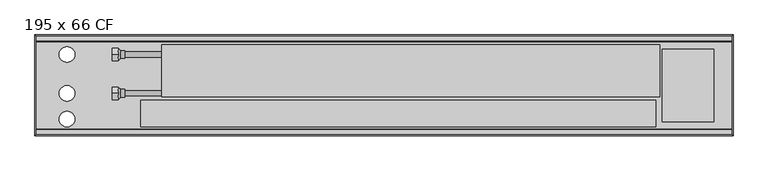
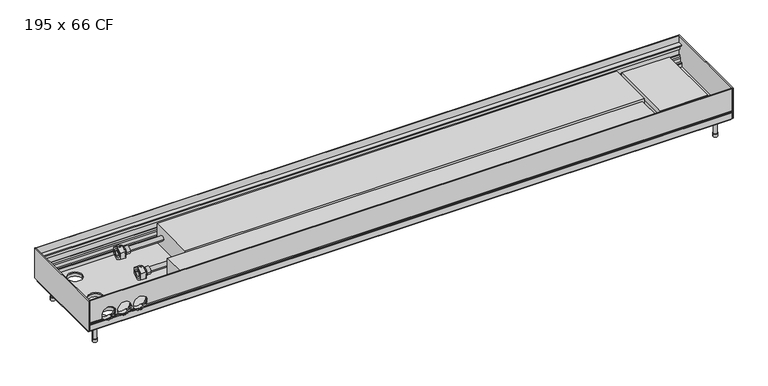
"""IFC4 building model written with IfcOpenShell, lengths in millimetres: proxy geometry, Mohlenhof_Внутрипольный конвектор_QSKM CF : 195 x 66 CF."""

from ifc_helpers import new_model, si_unit, point, frame, frame_2d, origin, place, context, project, spatial, polyline, circle_curve, ellipse_curve, trimmed, segment, composite_curve, outline, extrude, source, transform, mapped, element, save
from ifc_brep_helpers import plane_surface, cylinder_surface, revolved_surface, advanced_brep


def proxy_195_x_66_cf_f7968546(model_context):
    return source(origin(), model_context, "Body", "SolidModel", [
        advanced_brep(
        [(-514.0, -213.0, -41.0), (-514.0, -201.0, -41.0), (-514.0, -225.0, -41.0), (-501.5, -220.5, -41.0), (-501.5, -205.5, -41.0), (-501.5, -213.0, -41.0), (-509.0, -220.5, -41.0), (-509.0, -205.5, -41.0)],
        [
            (0, 1),
            (1, 2, circle_curve(frame((-514.0, -213.0, -41.0), z_axis=(-1.0, 0.0, 0.0), x_axis=(0.0, 1.0, 0.0)), 12.0)),
            (2, 0),
            (2, 1, circle_curve(frame((-514.0, -213.0, -41.0), z_axis=(-1.0, 0.0, 0.0), x_axis=(0.0, 1.0, 0.0)), 12.0)),
            (3, 4, circle_curve(frame((-501.5, -213.0, -41.0), z_axis=(1.0, 0.0, 0.0), x_axis=(0.0, 1.0, 0.0)), 7.5)),
            (4, 5),
            (5, 3),
            (4, 3, circle_curve(frame((-501.5, -213.0, -41.0), z_axis=(1.0, 0.0, 0.0), x_axis=(0.0, 1.0, 0.0)), 7.5)),
            (6, 7, circle_curve(frame((-509.0, -213.0, -41.0), z_axis=(1.0, 0.0, 0.0), x_axis=(0.0, 1.0, 0.0)), 7.5)),
            (7, 4),
            (3, 6),
            (7, 6, circle_curve(frame((-509.0, -213.0, -41.0), z_axis=(1.0, 0.0, 0.0), x_axis=(0.0, 1.0, 0.0)), 7.5)),
            (1, 7),
            (6, 2),
        ],
        [
            plane_surface(frame((-514.0, -213.0, -41.0), z_axis=(-1.0, 0.0, 0.0), x_axis=(0.0, 1.0, 0.0))),
            plane_surface(frame((-501.5, -213.0, -41.0), z_axis=(1.0, 0.0, 0.0), x_axis=(0.0, 1.0, 0.0))),
            cylinder_surface(frame((-514.0, -213.0, -41.0), z_axis=(-1.0, 0.0, 0.0), x_axis=(0.0, 1.0, 0.0)), 7.5),
            revolved_surface(polyline([(-509.0, -205.5, -41.0), (-514.0, -201.0, -41.0)]), (-514.0, -213.0, -41.0), (-1.0, 0.0, 0.0)),
        ],
        [
            (0, [[1, 2, 3]]),
            (0, [[-3, 4, -1]]),
            (1, [[5, 6, 7]]),
            (1, [[8, -7, -6]]),
            (2, [[9, 10, -5, 11]]),
            (2, [[12, -11, -8, -10]]),
            (3, [[-2, 13, -9, 14]]),
            (3, [[-4, -14, -12, -13]]),
        ],
    ),
        extrude(outline(polyline([(-213.0, -27.1435935), (-201.0, -34.0717968), (-201.0, -47.9282032), (-213.0, -54.8564065), (-225.0, -47.9282032), (-225.0, -34.0717968), (-213.0, -27.1435935)]), holes=[composite_curve([segment(trimmed(circle_curve(frame_2d((-213.0, -41.0)), 8.5), [point((-204.5, -41.0))], [point((-221.5, -41.0))], True, "CARTESIAN"), True, "CONTINUOUS"), segment(trimmed(circle_curve(frame_2d((-213.0, -41.0)), 8.5), [point((-221.5, -41.0))], [point((-204.5, -41.0))], True, "CARTESIAN"), True, "CONTINUOUS")], self_intersect=False)]), frame((-525.0, 0.0, 0.0), z_axis=(1.0, 0.0, 0.0), x_axis=(0.0, 1.0, 0.0)), (0.0, 0.0, 1.0), 11.0),
        advanced_brep(
        [(-514.0, -138.0, -41.0), (-514.0, -126.0, -41.0), (-514.0, -150.0, -41.0), (-501.5, -145.5, -41.0), (-501.5, -130.5, -41.0), (-501.5, -138.0, -41.0), (-509.0, -145.5, -41.0), (-509.0, -130.5, -41.0)],
        [
            (0, 1),
            (1, 2, circle_curve(frame((-514.0, -138.0, -41.0), z_axis=(-1.0, 0.0, 0.0), x_axis=(0.0, 1.0, 0.0)), 12.0)),
            (2, 0),
            (2, 1, circle_curve(frame((-514.0, -138.0, -41.0), z_axis=(-1.0, 0.0, 0.0), x_axis=(0.0, 1.0, 0.0)), 12.0)),
            (3, 4, circle_curve(frame((-501.5, -138.0, -41.0), z_axis=(1.0, 0.0, 0.0), x_axis=(0.0, 1.0, 0.0)), 7.5)),
            (4, 5),
            (5, 3),
            (4, 3, circle_curve(frame((-501.5, -138.0, -41.0), z_axis=(1.0, 0.0, 0.0), x_axis=(0.0, 1.0, 0.0)), 7.5)),
            (6, 7, circle_curve(frame((-509.0, -138.0, -41.0), z_axis=(1.0, 0.0, 0.0), x_axis=(0.0, 1.0, 0.0)), 7.5)),
            (7, 4),
            (3, 6),
            (7, 6, circle_curve(frame((-509.0, -138.0, -41.0), z_axis=(1.0, 0.0, 0.0), x_axis=(0.0, 1.0, 0.0)), 7.5)),
            (1, 7),
            (6, 2),
        ],
        [
            plane_surface(frame((-514.0, -138.0, -41.0), z_axis=(-1.0, 0.0, 0.0), x_axis=(0.0, 1.0, 0.0))),
            plane_surface(frame((-501.5, -138.0, -41.0), z_axis=(1.0, 0.0, 0.0), x_axis=(0.0, 1.0, 0.0))),
            cylinder_surface(frame((-514.0, -138.0, -41.0), z_axis=(-1.0, 0.0, 0.0), x_axis=(0.0, 1.0, 0.0)), 7.5),
            revolved_surface(polyline([(-509.0, -130.5, -41.0), (-514.0, -126.0, -41.0)]), (-514.0, -138.0, -41.0), (-1.0, 0.0, 0.0)),
        ],
        [
            (0, [[1, 2, 3]]),
            (0, [[-3, 4, -1]]),
            (1, [[5, 6, 7]]),
            (1, [[8, -7, -6]]),
            (2, [[9, 10, -5, 11]]),
            (2, [[12, -11, -8, -10]]),
            (3, [[-2, 13, -9, 14]]),
            (3, [[-4, -14, -12, -13]]),
        ],
    ),
        extrude(outline(polyline([(-138.0, -27.1435935), (-126.0, -34.0717968), (-126.0, -47.9282032), (-138.0, -54.8564065), (-150.0, -47.9282032), (-150.0, -34.0717968), (-138.0, -27.1435935)]), holes=[composite_curve([segment(trimmed(circle_curve(frame_2d((-138.0, -41.0)), 8.5), [point((-129.5, -41.0))], [point((-146.5, -41.0))], True, "CARTESIAN"), True, "CONTINUOUS"), segment(trimmed(circle_curve(frame_2d((-138.0, -41.0)), 8.5), [point((-146.5, -41.0))], [point((-129.5, -41.0))], True, "CARTESIAN"), True, "CONTINUOUS")], self_intersect=False)]), frame((-525.0, 0.0, 0.0), z_axis=(1.0, 0.0, 0.0), x_axis=(0.0, 1.0, 0.0)), (0.0, 0.0, 1.0), 11.0),
        extrude(outline(composite_curve([segment(trimmed(circle_curve(frame_2d((-650.0, -273.5)), 4.5), [point((-654.5, -273.5))], [point((-645.5, -273.5))], False, "CARTESIAN"), True, "CONTINUOUS"), segment(trimmed(circle_curve(frame_2d((-650.0, -273.5)), 4.5), [point((-645.5, -273.5))], [point((-654.5, -273.5))], False, "CARTESIAN"), True, "CONTINUOUS")], self_intersect=False)), frame((0.0, 0.0, -110.0), z_axis=(0.0, 0.0, 1.0), x_axis=(1.0, 0.0, 0.0)), (0.0, 0.0, 1.0), 7.0),
        extrude(outline(composite_curve([segment(trimmed(circle_curve(frame_2d((-650.0, -273.5)), 4.0), [point((-654.0, -273.5))], [point((-646.0, -273.5))], False, "CARTESIAN"), True, "CONTINUOUS"), segment(trimmed(circle_curve(frame_2d((-650.0, -273.5)), 4.0), [point((-646.0, -273.5))], [point((-654.0, -273.5))], False, "CARTESIAN"), True, "CONTINUOUS")], self_intersect=False)), frame((0.0, 0.0, -103.0), z_axis=(0.0, 0.0, 1.0), x_axis=(1.0, 0.0, 0.0)), (0.0, 0.0, 1.0), 32.5),
        extrude(outline(composite_curve([segment(trimmed(circle_curve(frame_2d((-650.0, -121.5)), 4.5), [point((-654.5, -121.5))], [point((-645.5, -121.5))], False, "CARTESIAN"), True, "CONTINUOUS"), segment(trimmed(circle_curve(frame_2d((-650.0, -121.5)), 4.5), [point((-645.5, -121.5))], [point((-654.5, -121.5))], False, "CARTESIAN"), True, "CONTINUOUS")], self_intersect=False)), frame((0.0, 0.0, -110.0), z_axis=(0.0, 0.0, 1.0), x_axis=(1.0, 0.0, 0.0)), (0.0, 0.0, 1.0), 7.0),
        extrude(outline(composite_curve([segment(trimmed(circle_curve(frame_2d((-650.0, -121.5)), 4.0), [point((-654.0, -121.5))], [point((-646.0, -121.5))], False, "CARTESIAN"), True, "CONTINUOUS"), segment(trimmed(circle_curve(frame_2d((-650.0, -121.5)), 4.0), [point((-646.0, -121.5))], [point((-654.0, -121.5))], False, "CARTESIAN"), True, "CONTINUOUS")], self_intersect=False)), frame((0.0, 0.0, -103.0), z_axis=(0.0, 0.0, 1.0), x_axis=(1.0, 0.0, 0.0)), (0.0, 0.0, 1.0), 32.5),
        extrude(outline(composite_curve([segment(trimmed(circle_curve(frame_2d((650.0, -273.5)), 4.5), [point((645.5, -273.5))], [point((654.5, -273.5))], False, "CARTESIAN"), True, "CONTINUOUS"), segment(trimmed(circle_curve(frame_2d((650.0, -273.5)), 4.5), [point((654.5, -273.5))], [point((645.5, -273.5))], False, "CARTESIAN"), True, "CONTINUOUS")], self_intersect=False)), frame((0.0, 0.0, -110.0), z_axis=(0.0, 0.0, 1.0), x_axis=(1.0, 0.0, 0.0)), (0.0, 0.0, 1.0), 7.0),
        extrude(outline(composite_curve([segment(trimmed(circle_curve(frame_2d((650.0, -273.5)), 4.0), [point((646.0, -273.5))], [point((654.0, -273.5))], False, "CARTESIAN"), True, "CONTINUOUS"), segment(trimmed(circle_curve(frame_2d((650.0, -273.5)), 4.0), [point((654.0, -273.5))], [point((646.0, -273.5))], False, "CARTESIAN"), True, "CONTINUOUS")], self_intersect=False)), frame((0.0, 0.0, -103.0), z_axis=(0.0, 0.0, 1.0), x_axis=(1.0, 0.0, 0.0)), (0.0, 0.0, 1.0), 32.5),
        extrude(outline(composite_curve([segment(trimmed(circle_curve(frame_2d((650.0, -121.5)), 4.5), [point((645.5, -121.5))], [point((654.5, -121.5))], False, "CARTESIAN"), True, "CONTINUOUS"), segment(trimmed(circle_curve(frame_2d((650.0, -121.5)), 4.5), [point((654.5, -121.5))], [point((645.5, -121.5))], False, "CARTESIAN"), True, "CONTINUOUS")], self_intersect=False)), frame((0.0, 0.0, -110.0), z_axis=(0.0, 0.0, 1.0), x_axis=(1.0, 0.0, 0.0)), (0.0, 0.0, 1.0), 7.0),
        extrude(outline(composite_curve([segment(trimmed(circle_curve(frame_2d((650.0, -121.5)), 4.0), [point((646.0, -121.5))], [point((654.0, -121.5))], False, "CARTESIAN"), True, "CONTINUOUS"), segment(trimmed(circle_curve(frame_2d((650.0, -121.5)), 4.0), [point((654.0, -121.5))], [point((646.0, -121.5))], False, "CARTESIAN"), True, "CONTINUOUS")], self_intersect=False)), frame((0.0, 0.0, -103.0), z_axis=(0.0, 0.0, 1.0), x_axis=(1.0, 0.0, 0.0)), (0.0, 0.0, 1.0), 32.5),
        extrude(outline(polyline([(-62.5, 626.0), (-44.5, 626.0), (-44.5, 635.0), (-29.5, 635.0), (-29.5, 638.0), (-19.5, 638.0), (-19.5, 538.0), (-29.5, 538.0), (-29.5, 541.0), (-62.5, 541.0), (-62.5, 626.0)])), frame((0.0, -267.5, 0.0), z_axis=(0.0, 1.0, 0.0), x_axis=(0.0, 0.0, 1.0)), (0.0, 0.0, 1.0), 140.0),
        extrude(outline(polyline([(525.0, -225.87), (525.0, -277.18), (-470.0, -277.18), (-470.0, -225.87), (525.0, -225.87)])), frame((0.0, 0.0, -62.5), z_axis=(0.0, 0.0, 1.0), x_axis=(1.0, 0.0, 0.0)), (0.0, 0.0, 1.0), 43.62),
        extrude(outline(composite_curve([segment(trimmed(circle_curve(frame_2d((-213.0, -41.0)), 5.0), [point((-218.0, -41.0))], [point((-208.0, -41.0))], False, "CARTESIAN"), True, "CONTINUOUS"), segment(trimmed(circle_curve(frame_2d((-213.0, -41.0)), 5.0), [point((-208.0, -41.0))], [point((-218.0, -41.0))], False, "CARTESIAN"), True, "CONTINUOUS")], self_intersect=False)), frame((-525.0, 0.0, 0.0), z_axis=(1.0, 0.0, 0.0), x_axis=(0.0, 1.0, 0.0)), (0.0, 0.0, 1.0), 95.0),
        extrude(outline(composite_curve([segment(trimmed(circle_curve(frame_2d((-138.0, -41.0)), 5.0), [point((-143.0, -41.0))], [point((-133.0, -41.0))], False, "CARTESIAN"), True, "CONTINUOUS"), segment(trimmed(circle_curve(frame_2d((-138.0, -41.0)), 5.0), [point((-133.0, -41.0))], [point((-143.0, -41.0))], False, "CARTESIAN"), True, "CONTINUOUS")], self_intersect=False)), frame((-525.0, 0.0, 0.0), z_axis=(1.0, 0.0, 0.0), x_axis=(0.0, 1.0, 0.0)), (0.0, 0.0, 1.0), 95.0),
        advanced_brep(
        [(673.0, -295.0, -48.5473602), (673.0, -293.5, -49.2468216), (673.0, -292.5, -49.2468216), (673.0, -292.5, -46.0008038), (673.0, -290.0, -46.0008038), (673.0, -290.0, -56.5008038), (673.0, -292.5, -56.5008038), (673.0, -292.5, -53.2468216), (673.0, -293.5, -53.2468216), (673.0, -295.0, -53.9462831), (673.0, -295.0, -66.5), (673.0, -291.0, -66.5), (673.0, -291.0, -65.2), (673.0, -293.0, -65.2), (673.0, -293.0, -62.5), (673.0, -282.0, -62.5), (673.0, -282.0, -54.9172677), (673.0, -283.4172677, -53.5), (673.0, -287.0, -53.5), (673.0, -287.0, -45.91), (673.0, -289.0, -43.91), (673.0, -289.0, -39.5), (673.0, -290.0, -39.5), (673.0, -290.0, -43.5), (673.0, -292.4956439, -43.5), (673.0, -292.4956439, -23.0), (673.0, -290.0, -23.0), (673.0, -290.0, -27.0), (673.0, -289.0, -27.0), (673.0, -289.0, -17.0), (673.0, -283.3956439, -17.0), (673.0, -283.3956439, -15.0), (673.0, -293.4, -15.0), (673.0, -293.4, 0.0), (673.0, -295.0, 0.0), (-673.0, -295.0, -48.5473602), (-673.0, -295.0, 0.0), (-673.0, -293.4, 0.0), (-673.0, -293.4, -15.0), (-673.0, -283.3956439, -15.0), (-673.0, -283.3956439, -17.0), (-673.0, -289.0, -17.0), (-673.0, -289.0, -27.0), (-673.0, -290.0, -27.0), (-673.0, -290.0, -23.0), (-673.0, -292.4956439, -23.0), (-673.0, -292.4956439, -43.5), (-673.0, -290.0, -43.5), (-673.0, -290.0, -39.5), (-673.0, -289.0, -39.5), (-673.0, -289.0, -43.91), (-673.0, -287.0, -45.91), (-673.0, -287.0, -53.5), (-673.0, -283.4172677, -53.5), (-673.0, -282.0, -54.9172677), (-673.0, -282.0, -62.5), (-673.0, -293.0, -62.5), (-673.0, -293.0, -65.2), (-673.0, -291.0, -65.2), (-673.0, -291.0, -66.5), (-673.0, -295.0, -66.5), (-673.0, -295.0, -53.9462831), (-673.0, -293.5, -53.2468216), (-673.0, -292.5, -53.2468216), (-673.0, -292.5, -56.5008038), (-673.0, -290.0, -56.5008038), (-673.0, -290.0, -46.0008038), (-673.0, -292.5, -46.0008038), (-673.0, -292.5, -49.2468216), (-673.0, -293.5, -49.2468216), (-553.7585985, -295.0, -48.5473602), (-554.155283, -293.5, -49.2468216), (-645.844717, -293.5, -49.2468216), (-646.2414015, -295.0, -48.5473602), (-613.2414015, -295.0, -48.5473602), (-619.7585985, -295.0, -48.5473602), (-620.155283, -293.5, -49.2468216), (-612.844717, -293.5, -49.2468216), (-580.2414015, -295.0, -48.5473602), (-586.7585985, -295.0, -48.5473602), (-587.155283, -293.5, -49.2468216), (-579.844717, -293.5, -49.2468216), (-554.155283, -292.5, -49.2468216), (-645.844717, -292.5, -49.2468216), (-620.155283, -292.5, -49.2468216), (-612.844717, -292.5, -49.2468216), (-587.155283, -292.5, -49.2468216), (-579.844717, -292.5, -49.2468216), (-552.6911648, -292.5, -46.0008038), (-647.3088352, -292.5, -46.0008038), (-618.6911648, -292.5, -46.0008038), (-614.3088352, -292.5, -46.0008038), (-585.6911648, -292.5, -46.0008038), (-581.3088352, -292.5, -46.0008038), (-552.6911648, -290.0, -46.0008038), (-647.3088352, -290.0, -46.0008038), (-618.6911648, -290.0, -46.0008038), (-614.3088352, -290.0, -46.0008038), (-585.6911648, -290.0, -46.0008038), (-581.3088352, -290.0, -46.0008038), (-642.328032, -292.5, -53.2468216), (-623.671968, -292.5, -53.2468216), (-609.328032, -292.5, -53.2468216), (-590.671968, -292.5, -53.2468216), (-576.328032, -292.5, -53.2468216), (-557.671968, -292.5, -53.2468216), (-557.671968, -293.5, -53.2468216), (-642.328032, -293.5, -53.2468216), (-623.671968, -293.5, -53.2468216), (-609.328032, -293.5, -53.2468216), (-590.671968, -293.5, -53.2468216), (-576.328032, -293.5, -53.2468216), (-558.6280208, -295.0, -53.9462831), (-641.3719792, -295.0, -53.9462831), (-624.6280208, -295.0, -53.9462831), (-608.3719792, -295.0, -53.9462831), (-591.6280208, -295.0, -53.9462831), (-575.3719792, -295.0, -53.9462831), (-639.7064841, -282.0, -54.9172677), (-626.2935159, -282.0, -54.9172677), (-606.7064841, -282.0, -54.9172677), (-593.2935159, -282.0, -54.9172677), (-573.7064841, -282.0, -54.9172677), (-560.2935159, -282.0, -54.9172677), (-558.0, -283.4172677, -53.5), (-642.0, -283.4172677, -53.5), (-624.0, -283.4172677, -53.5), (-609.0, -283.4172677, -53.5), (-591.0, -283.4172677, -53.5), (-576.0, -283.4172677, -53.5), (-558.0, -287.0, -53.5), (-642.0, -287.0, -53.5), (-624.0, -287.0, -53.5), (-609.0, -287.0, -53.5), (-591.0, -287.0, -53.5), (-576.0, -287.0, -53.5), (-552.6629187, -287.0, -45.91), (-647.3370813, -287.0, -45.91), (-618.6629187, -287.0, -45.91), (-614.3370813, -287.0, -45.91), (-585.6629187, -287.0, -45.91), (-581.3370813, -287.0, -45.91), (-552.1948691, -289.0, -43.91), (-647.8051309, -289.0, -43.91), (-618.1948691, -289.0, -43.91), (-614.8051309, -289.0, -43.91), (-585.1948691, -289.0, -43.91), (-581.8051309, -289.0, -43.91), (-552.0, -289.0, -41.5), (-552.1339313, -289.0, -39.5), (-647.8660687, -289.0, -39.5), (-648.0, -289.0, -41.5), (-618.0, -289.0, -41.5), (-618.1339313, -289.0, -39.5), (-614.8660687, -289.0, -39.5), (-615.0, -289.0, -41.5), (-585.0, -289.0, -41.5), (-585.1339313, -289.0, -39.5), (-581.8660687, -289.0, -39.5), (-582.0, -289.0, -41.5), (-552.1339313, -290.0, -39.5), (-647.8660687, -290.0, -39.5), (-618.1339313, -290.0, -39.5), (-614.8660687, -290.0, -39.5), (-585.1339313, -290.0, -39.5), (-581.8660687, -290.0, -39.5), (-552.0, -290.0, -41.5), (-552.1339313, -290.0, -43.5), (-647.8660687, -290.0, -43.5), (-648.0, -290.0, -41.5), (-618.0, -290.0, -41.5), (-618.1339313, -290.0, -43.5), (-614.8660687, -290.0, -43.5), (-615.0, -290.0, -41.5), (-585.0, -290.0, -41.5), (-585.1339313, -290.0, -43.5), (-581.8660687, -290.0, -43.5), (-582.0, -290.0, -41.5), (-552.1339313, -292.4956439, -43.5), (-647.8660687, -292.4956439, -43.5), (-618.1339313, -292.4956439, -43.5), (-614.8660687, -292.4956439, -43.5), (-585.1339313, -292.4956439, -43.5), (-581.8660687, -292.4956439, -43.5), (-552.0, -292.4956439, -41.5), (-582.0, -292.4956439, -41.5), (-585.0, -292.4956439, -41.5), (-615.0, -292.4956439, -41.5), (-618.0, -292.4956439, -41.5), (-648.0, -292.4956439, -41.5), (-636.8405729, -290.0, -27.0), (-629.1594271, -290.0, -27.0), (-603.8405729, -290.0, -27.0), (-596.1594271, -290.0, -27.0), (-570.8405729, -290.0, -27.0), (-563.1594271, -290.0, -27.0), (-563.1594271, -289.0, -27.0), (-636.8405729, -289.0, -27.0), (-629.1594271, -289.0, -27.0), (-603.8405729, -289.0, -27.0), (-596.1594271, -289.0, -27.0), (-570.8405729, -289.0, -27.0), (-648.0, -295.0, -41.5), (-618.0, -295.0, -41.5), (-615.0, -295.0, -41.5), (-585.0, -295.0, -41.5), (-582.0, -295.0, -41.5), (-552.0, -295.0, -41.5)],
        [
            (0, 1),
            (1, 2),
            (2, 3),
            (3, 4),
            (4, 5),
            (5, 6),
            (6, 7),
            (7, 8),
            (8, 9),
            (9, 10),
            (10, 11),
            (11, 12),
            (12, 13),
            (13, 14),
            (14, 15),
            (15, 16),
            (16, 17),
            (17, 18),
            (18, 19),
            (19, 20),
            (20, 21),
            (21, 22),
            (22, 23),
            (23, 24),
            (24, 25),
            (25, 26),
            (26, 27),
            (27, 28),
            (28, 29),
            (29, 30),
            (30, 31),
            (31, 32),
            (32, 33),
            (33, 34),
            (34, 0),
            (35, 36),
            (36, 37),
            (37, 38),
            (38, 39),
            (39, 40),
            (40, 41),
            (41, 42),
            (42, 43),
            (43, 44),
            (44, 45),
            (45, 46),
            (46, 47),
            (47, 48),
            (48, 49),
            (49, 50),
            (50, 51),
            (51, 52),
            (52, 53),
            (53, 54),
            (54, 55),
            (55, 56),
            (56, 57),
            (57, 58),
            (58, 59),
            (59, 60),
            (60, 61),
            (61, 62),
            (62, 63),
            (63, 64),
            (64, 65),
            (65, 66),
            (66, 67),
            (67, 68),
            (68, 69),
            (69, 35),
            (0, 70),
            (70, 71, ellipse_curve(frame((-567.0, -310.1131126, -41.5), z_axis=(0.0, 0.42261826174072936, 0.9063077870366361), x_axis=(0.0, -0.906307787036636, 0.4226182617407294)), 35.4930237, 15.0)),
            (71, 1),
            (69, 72),
            (72, 73, ellipse_curve(frame((-633.0, -310.1131126, -41.5), z_axis=(0.0, 0.42261826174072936, 0.9063077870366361), x_axis=(0.0, -0.906307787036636, 0.4226182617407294)), 35.4930237, 15.0)),
            (73, 35),
            (74, 75),
            (75, 76, ellipse_curve(frame((-633.0, -310.1131126, -41.5), z_axis=(0.0, 0.42261826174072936, 0.9063077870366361), x_axis=(0.0, -0.906307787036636, 0.4226182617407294)), 35.4930237, 15.0)),
            (76, 77),
            (77, 74, ellipse_curve(frame((-600.0, -310.1131126, -41.5), z_axis=(0.0, 0.42261826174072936, 0.9063077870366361), x_axis=(0.0, -0.906307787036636, 0.4226182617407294)), 35.4930237, 15.0)),
            (78, 79),
            (79, 80, ellipse_curve(frame((-600.0, -310.1131126, -41.5), z_axis=(0.0, 0.42261826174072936, 0.9063077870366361), x_axis=(0.0, -0.906307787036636, 0.4226182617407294)), 35.4930237, 15.0)),
            (80, 81),
            (81, 78, ellipse_curve(frame((-567.0, -310.1131126, -41.5), z_axis=(0.0, 0.42261826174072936, 0.9063077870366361), x_axis=(0.0, -0.906307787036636, 0.4226182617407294)), 35.4930237, 15.0)),
            (71, 82),
            (82, 2),
            (68, 83),
            (83, 72),
            (76, 84),
            (84, 85),
            (85, 77),
            (80, 86),
            (86, 87),
            (87, 81),
            (82, 88, circle_curve(frame((-567.0, -292.5, -41.5), z_axis=(0.0, -1.0, 0.0), x_axis=(1.0, 0.0, 0.0)), 15.0)),
            (88, 3),
            (67, 89),
            (89, 83, circle_curve(frame((-633.0, -292.5, -41.5), z_axis=(0.0, -1.0, 0.0), x_axis=(1.0, 0.0, 0.0)), 15.0)),
            (84, 90, circle_curve(frame((-633.0, -292.5, -41.5), z_axis=(0.0, -1.0, 0.0), x_axis=(1.0, 0.0, 0.0)), 15.0)),
            (90, 91),
            (91, 85, circle_curve(frame((-600.0, -292.5, -41.5), z_axis=(0.0, -1.0, 0.0), x_axis=(1.0, 0.0, 0.0)), 15.0)),
            (86, 92, circle_curve(frame((-600.0, -292.5, -41.5), z_axis=(0.0, -1.0, 0.0), x_axis=(1.0, 0.0, 0.0)), 15.0)),
            (92, 93),
            (93, 87, circle_curve(frame((-567.0, -292.5, -41.5), z_axis=(0.0, -1.0, 0.0), x_axis=(1.0, 0.0, 0.0)), 15.0)),
            (88, 94),
            (94, 4),
            (66, 95),
            (95, 89),
            (90, 96),
            (96, 97),
            (97, 91),
            (92, 98),
            (98, 99),
            (99, 93),
            (94, 99, circle_curve(frame((-567.0, -290.0, -41.5), z_axis=(0.0, 1.0, 0.0), x_axis=(1.0, 0.0, 0.0)), 15.0)),
            (98, 97, circle_curve(frame((-600.0, -290.0, -41.5), z_axis=(0.0, 1.0, 0.0), x_axis=(1.0, 0.0, 0.0)), 15.0)),
            (96, 95, circle_curve(frame((-633.0, -290.0, -41.5), z_axis=(0.0, 1.0, 0.0), x_axis=(1.0, 0.0, 0.0)), 15.0)),
            (65, 5),
            (64, 6),
            (63, 100),
            (100, 101, circle_curve(frame((-633.0, -292.5, -41.5), z_axis=(0.0, -1.0, 0.0), x_axis=(1.0, 0.0, 0.0)), 15.0)),
            (101, 102),
            (102, 103, circle_curve(frame((-600.0, -292.5, -41.5), z_axis=(0.0, -1.0, 0.0), x_axis=(1.0, 0.0, 0.0)), 15.0)),
            (103, 104),
            (104, 105, circle_curve(frame((-567.0, -292.5, -41.5), z_axis=(0.0, -1.0, 0.0), x_axis=(1.0, 0.0, 0.0)), 15.0)),
            (105, 7),
            (105, 106),
            (106, 8),
            (62, 107),
            (107, 100),
            (101, 108),
            (108, 109),
            (109, 102),
            (103, 110),
            (110, 111),
            (111, 104),
            (106, 112, ellipse_curve(frame((-567.0, -268.3088597, -41.5), z_axis=(0.0, 0.4226182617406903, -0.9063077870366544), x_axis=(0.0, -0.9063077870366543, -0.42261826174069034)), 35.4930237, 15.0)),
            (112, 9),
            (61, 113),
            (113, 107, ellipse_curve(frame((-633.0, -268.3088597, -41.5), z_axis=(0.0, 0.4226182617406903, -0.9063077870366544), x_axis=(0.0, -0.9063077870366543, -0.42261826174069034)), 35.4930237, 15.0)),
            (108, 114, ellipse_curve(frame((-633.0, -268.3088597, -41.5), z_axis=(0.0, 0.4226182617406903, -0.9063077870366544), x_axis=(0.0, -0.9063077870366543, -0.42261826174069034)), 35.4930237, 15.0)),
            (114, 115),
            (115, 109, ellipse_curve(frame((-600.0, -268.3088597, -41.5), z_axis=(0.0, 0.4226182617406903, -0.9063077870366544), x_axis=(0.0, -0.9063077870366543, -0.42261826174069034)), 35.4930237, 15.0)),
            (110, 116, ellipse_curve(frame((-600.0, -268.3088597, -41.5), z_axis=(0.0, 0.4226182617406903, -0.9063077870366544), x_axis=(0.0, -0.9063077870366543, -0.42261826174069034)), 35.4930237, 15.0)),
            (116, 117),
            (117, 111, ellipse_curve(frame((-567.0, -268.3088597, -41.5), z_axis=(0.0, 0.4226182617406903, -0.9063077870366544), x_axis=(0.0, -0.9063077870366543, -0.42261826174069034)), 35.4930237, 15.0)),
            (112, 117, circle_curve(frame((-567.0, -295.0, -41.5), z_axis=(0.0, 1.0, 0.0), x_axis=(1.0, 0.0, 0.0)), 15.0)),
            (116, 115, circle_curve(frame((-600.0, -295.0, -41.5), z_axis=(0.0, 1.0, 0.0), x_axis=(1.0, 0.0, 0.0)), 15.0)),
            (114, 113, circle_curve(frame((-633.0, -295.0, -41.5), z_axis=(0.0, 1.0, 0.0), x_axis=(1.0, 0.0, 0.0)), 15.0)),
            (60, 10),
            (59, 11),
            (58, 12),
            (57, 13),
            (56, 14),
            (55, 15),
            (54, 118),
            (118, 119, circle_curve(frame((-633.0, -282.0, -41.5), z_axis=(0.0, -1.0, 0.0), x_axis=(1.0, 0.0, 0.0)), 15.0)),
            (119, 120),
            (120, 121, circle_curve(frame((-600.0, -282.0, -41.5), z_axis=(0.0, -1.0, 0.0), x_axis=(1.0, 0.0, 0.0)), 15.0)),
            (121, 122),
            (122, 123, circle_curve(frame((-567.0, -282.0, -41.5), z_axis=(0.0, -1.0, 0.0), x_axis=(1.0, 0.0, 0.0)), 15.0)),
            (123, 16),
            (123, 124, ellipse_curve(frame((-567.0, -295.4172677, -41.5), z_axis=(0.0, -0.7071067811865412, -0.7071067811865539), x_axis=(0.0, -0.7071067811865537, 0.7071067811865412)), 21.2132034, 15.0)),
            (124, 17),
            (53, 125),
            (125, 118, ellipse_curve(frame((-633.0, -295.4172677, -41.5), z_axis=(0.0, -0.7071067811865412, -0.7071067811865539), x_axis=(0.0, -0.7071067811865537, 0.7071067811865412)), 21.2132034, 15.0)),
            (119, 126, ellipse_curve(frame((-633.0, -295.4172677, -41.5), z_axis=(0.0, -0.7071067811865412, -0.7071067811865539), x_axis=(0.0, -0.7071067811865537, 0.7071067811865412)), 21.2132034, 15.0)),
            (126, 127),
            (127, 120, ellipse_curve(frame((-600.0, -295.4172677, -41.5), z_axis=(0.0, -0.7071067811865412, -0.7071067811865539), x_axis=(0.0, -0.7071067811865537, 0.7071067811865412)), 21.2132034, 15.0)),
            (121, 128, ellipse_curve(frame((-600.0, -295.4172677, -41.5), z_axis=(0.0, -0.7071067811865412, -0.7071067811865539), x_axis=(0.0, -0.7071067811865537, 0.7071067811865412)), 21.2132034, 15.0)),
            (128, 129),
            (129, 122, ellipse_curve(frame((-567.0, -295.4172677, -41.5), z_axis=(0.0, -0.7071067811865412, -0.7071067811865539), x_axis=(0.0, -0.7071067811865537, 0.7071067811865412)), 21.2132034, 15.0)),
            (124, 130),
            (130, 18),
            (52, 131),
            (131, 125),
            (126, 132),
            (132, 133),
            (133, 127),
            (128, 134),
            (134, 135),
            (135, 129),
            (130, 136, circle_curve(frame((-567.0, -287.0, -41.5), z_axis=(0.0, -1.0, 0.0), x_axis=(1.0, 0.0, 0.0)), 15.0)),
            (136, 19),
            (51, 137),
            (137, 131, circle_curve(frame((-633.0, -287.0, -41.5), z_axis=(0.0, -1.0, 0.0), x_axis=(1.0, 0.0, 0.0)), 15.0)),
            (132, 138, circle_curve(frame((-633.0, -287.0, -41.5), z_axis=(0.0, -1.0, 0.0), x_axis=(1.0, 0.0, 0.0)), 15.0)),
            (138, 139),
            (139, 133, circle_curve(frame((-600.0, -287.0, -41.5), z_axis=(0.0, -1.0, 0.0), x_axis=(1.0, 0.0, 0.0)), 15.0)),
            (134, 140, circle_curve(frame((-600.0, -287.0, -41.5), z_axis=(0.0, -1.0, 0.0), x_axis=(1.0, 0.0, 0.0)), 15.0)),
            (140, 141),
            (141, 135, circle_curve(frame((-567.0, -287.0, -41.5), z_axis=(0.0, -1.0, 0.0), x_axis=(1.0, 0.0, 0.0)), 15.0)),
            (136, 142, ellipse_curve(frame((-567.0, -291.41, -41.5), z_axis=(0.0, -0.7071067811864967, -0.7071067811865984), x_axis=(0.0, -0.7071067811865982, 0.7071067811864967)), 21.2132034, 15.0)),
            (142, 20),
            (50, 143),
            (143, 137, ellipse_curve(frame((-633.0, -291.41, -41.5), z_axis=(0.0, -0.7071067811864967, -0.7071067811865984), x_axis=(0.0, -0.7071067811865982, 0.7071067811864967)), 21.2132034, 15.0)),
            (138, 144, ellipse_curve(frame((-633.0, -291.41, -41.5), z_axis=(0.0, -0.7071067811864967, -0.7071067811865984), x_axis=(0.0, -0.7071067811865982, 0.7071067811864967)), 21.2132034, 15.0)),
            (144, 145),
            (145, 139, ellipse_curve(frame((-600.0, -291.41, -41.5), z_axis=(0.0, -0.7071067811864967, -0.7071067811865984), x_axis=(0.0, -0.7071067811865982, 0.7071067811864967)), 21.2132034, 15.0)),
            (140, 146, ellipse_curve(frame((-600.0, -291.41, -41.5), z_axis=(0.0, -0.7071067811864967, -0.7071067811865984), x_axis=(0.0, -0.7071067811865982, 0.7071067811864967)), 21.2132034, 15.0)),
            (146, 147),
            (147, 141, ellipse_curve(frame((-567.0, -291.41, -41.5), z_axis=(0.0, -0.7071067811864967, -0.7071067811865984), x_axis=(0.0, -0.7071067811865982, 0.7071067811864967)), 21.2132034, 15.0)),
            (142, 148, circle_curve(frame((-567.0, -289.0, -41.5), z_axis=(0.0, -1.0, 0.0), x_axis=(1.0, 0.0, 0.0)), 15.0)),
            (148, 149, circle_curve(frame((-567.0, -289.0, -41.5), z_axis=(0.0, -1.0, 0.0), x_axis=(1.0, 0.0, 0.0)), 15.0)),
            (149, 21),
            (49, 150),
            (150, 151, circle_curve(frame((-633.0, -289.0, -41.5), z_axis=(0.0, -1.0, 0.0), x_axis=(1.0, 0.0, 0.0)), 15.0)),
            (151, 143, circle_curve(frame((-633.0, -289.0, -41.5), z_axis=(0.0, -1.0, 0.0), x_axis=(1.0, 0.0, 0.0)), 15.0)),
            (144, 152, circle_curve(frame((-633.0, -289.0, -41.5), z_axis=(0.0, -1.0, 0.0), x_axis=(1.0, 0.0, 0.0)), 15.0)),
            (152, 153, circle_curve(frame((-633.0, -289.0, -41.5), z_axis=(0.0, -1.0, 0.0), x_axis=(1.0, 0.0, 0.0)), 15.0)),
            (153, 154),
            (154, 155, circle_curve(frame((-600.0, -289.0, -41.5), z_axis=(0.0, -1.0, 0.0), x_axis=(1.0, 0.0, 0.0)), 15.0)),
            (155, 145, circle_curve(frame((-600.0, -289.0, -41.5), z_axis=(0.0, -1.0, 0.0), x_axis=(1.0, 0.0, 0.0)), 15.0)),
            (146, 156, circle_curve(frame((-600.0, -289.0, -41.5), z_axis=(0.0, -1.0, 0.0), x_axis=(1.0, 0.0, 0.0)), 15.0)),
            (156, 157, circle_curve(frame((-600.0, -289.0, -41.5), z_axis=(0.0, -1.0, 0.0), x_axis=(1.0, 0.0, 0.0)), 15.0)),
            (157, 158),
            (158, 159, circle_curve(frame((-567.0, -289.0, -41.5), z_axis=(0.0, -1.0, 0.0), x_axis=(1.0, 0.0, 0.0)), 15.0)),
            (159, 147, circle_curve(frame((-567.0, -289.0, -41.5), z_axis=(0.0, -1.0, 0.0), x_axis=(1.0, 0.0, 0.0)), 15.0)),
            (149, 160),
            (160, 22),
            (48, 161),
            (161, 150),
            (153, 162),
            (162, 163),
            (163, 154),
            (157, 164),
            (164, 165),
            (165, 158),
            (160, 166, circle_curve(frame((-567.0, -290.0, -41.5), z_axis=(0.0, 1.0, 0.0), x_axis=(1.0, 0.0, 0.0)), 15.0)),
            (166, 167, circle_curve(frame((-567.0, -290.0, -41.5), z_axis=(0.0, 1.0, 0.0), x_axis=(1.0, 0.0, 0.0)), 15.0)),
            (167, 23),
            (47, 168),
            (168, 169, circle_curve(frame((-633.0, -290.0, -41.5), z_axis=(0.0, 1.0, 0.0), x_axis=(1.0, 0.0, 0.0)), 15.0)),
            (169, 161, circle_curve(frame((-633.0, -290.0, -41.5), z_axis=(0.0, 1.0, 0.0), x_axis=(1.0, 0.0, 0.0)), 15.0)),
            (162, 170, circle_curve(frame((-633.0, -290.0, -41.5), z_axis=(0.0, 1.0, 0.0), x_axis=(1.0, 0.0, 0.0)), 15.0)),
            (170, 171, circle_curve(frame((-633.0, -290.0, -41.5), z_axis=(0.0, 1.0, 0.0), x_axis=(1.0, 0.0, 0.0)), 15.0)),
            (171, 172),
            (172, 173, circle_curve(frame((-600.0, -290.0, -41.5), z_axis=(0.0, 1.0, 0.0), x_axis=(1.0, 0.0, 0.0)), 15.0)),
            (173, 163, circle_curve(frame((-600.0, -290.0, -41.5), z_axis=(0.0, 1.0, 0.0), x_axis=(1.0, 0.0, 0.0)), 15.0)),
            (164, 174, circle_curve(frame((-600.0, -290.0, -41.5), z_axis=(0.0, 1.0, 0.0), x_axis=(1.0, 0.0, 0.0)), 15.0)),
            (174, 175, circle_curve(frame((-600.0, -290.0, -41.5), z_axis=(0.0, 1.0, 0.0), x_axis=(1.0, 0.0, 0.0)), 15.0)),
            (175, 176),
            (176, 177, circle_curve(frame((-567.0, -290.0, -41.5), z_axis=(0.0, 1.0, 0.0), x_axis=(1.0, 0.0, 0.0)), 15.0)),
            (177, 165, circle_curve(frame((-567.0, -290.0, -41.5), z_axis=(0.0, 1.0, 0.0), x_axis=(1.0, 0.0, 0.0)), 15.0)),
            (167, 178),
            (178, 24),
            (46, 179),
            (179, 168),
            (171, 180),
            (180, 181),
            (181, 172),
            (175, 182),
            (182, 183),
            (183, 176),
            (178, 184, circle_curve(frame((-567.0, -292.4956439, -41.5), z_axis=(0.0, -1.0, 0.0), x_axis=(1.0, 0.0, 0.0)), 15.0)),
            (184, 185, circle_curve(frame((-567.0, -292.4956439, -41.5), z_axis=(0.0, -1.0, 0.0), x_axis=(1.0, 0.0, 0.0)), 15.0)),
            (185, 183, circle_curve(frame((-567.0, -292.4956439, -41.5), z_axis=(0.0, -1.0, 0.0), x_axis=(1.0, 0.0, 0.0)), 15.0)),
            (182, 186, circle_curve(frame((-600.0, -292.4956439, -41.5), z_axis=(0.0, -1.0, 0.0), x_axis=(1.0, 0.0, 0.0)), 15.0)),
            (186, 187, circle_curve(frame((-600.0, -292.4956439, -41.5), z_axis=(0.0, -1.0, 0.0), x_axis=(1.0, 0.0, 0.0)), 15.0)),
            (187, 181, circle_curve(frame((-600.0, -292.4956439, -41.5), z_axis=(0.0, -1.0, 0.0), x_axis=(1.0, 0.0, 0.0)), 15.0)),
            (180, 188, circle_curve(frame((-633.0, -292.4956439, -41.5), z_axis=(0.0, -1.0, 0.0), x_axis=(1.0, 0.0, 0.0)), 15.0)),
            (188, 189, circle_curve(frame((-633.0, -292.4956439, -41.5), z_axis=(0.0, -1.0, 0.0), x_axis=(1.0, 0.0, 0.0)), 15.0)),
            (189, 179, circle_curve(frame((-633.0, -292.4956439, -41.5), z_axis=(0.0, -1.0, 0.0), x_axis=(1.0, 0.0, 0.0)), 15.0)),
            (45, 25),
            (44, 26),
            (43, 190),
            (190, 191, circle_curve(frame((-633.0, -290.0, -41.5), z_axis=(0.0, 1.0, 0.0), x_axis=(1.0, 0.0, 0.0)), 15.0)),
            (191, 192),
            (192, 193, circle_curve(frame((-600.0, -290.0, -41.5), z_axis=(0.0, 1.0, 0.0), x_axis=(1.0, 0.0, 0.0)), 15.0)),
            (193, 194),
            (194, 195, circle_curve(frame((-567.0, -290.0, -41.5), z_axis=(0.0, 1.0, 0.0), x_axis=(1.0, 0.0, 0.0)), 15.0)),
            (195, 27),
            (195, 196),
            (196, 28),
            (42, 197),
            (197, 190),
            (191, 198),
            (198, 199),
            (199, 192),
            (193, 200),
            (200, 201),
            (201, 194),
            (196, 201, circle_curve(frame((-567.0, -289.0, -41.5), z_axis=(0.0, -1.0, 0.0), x_axis=(1.0, 0.0, 0.0)), 15.0)),
            (200, 199, circle_curve(frame((-600.0, -289.0, -41.5), z_axis=(0.0, -1.0, 0.0), x_axis=(1.0, 0.0, 0.0)), 15.0)),
            (198, 197, circle_curve(frame((-633.0, -289.0, -41.5), z_axis=(0.0, -1.0, 0.0), x_axis=(1.0, 0.0, 0.0)), 15.0)),
            (41, 29),
            (40, 30),
            (39, 31),
            (38, 32),
            (37, 33),
            (36, 34),
            (73, 202, circle_curve(frame((-633.0, -295.0, -41.5), z_axis=(0.0, 1.0, 0.0), x_axis=(1.0, 0.0, 0.0)), 15.0)),
            (202, 203, circle_curve(frame((-633.0, -295.0, -41.5), z_axis=(0.0, 1.0, 0.0), x_axis=(1.0, 0.0, 0.0)), 15.0)),
            (203, 75, circle_curve(frame((-633.0, -295.0, -41.5), z_axis=(0.0, 1.0, 0.0), x_axis=(1.0, 0.0, 0.0)), 15.0)),
            (74, 204, circle_curve(frame((-600.0, -295.0, -41.5), z_axis=(0.0, 1.0, 0.0), x_axis=(1.0, 0.0, 0.0)), 15.0)),
            (204, 205, circle_curve(frame((-600.0, -295.0, -41.5), z_axis=(0.0, 1.0, 0.0), x_axis=(1.0, 0.0, 0.0)), 15.0)),
            (205, 79, circle_curve(frame((-600.0, -295.0, -41.5), z_axis=(0.0, 1.0, 0.0), x_axis=(1.0, 0.0, 0.0)), 15.0)),
            (78, 206, circle_curve(frame((-567.0, -295.0, -41.5), z_axis=(0.0, 1.0, 0.0), x_axis=(1.0, 0.0, 0.0)), 15.0)),
            (206, 207, circle_curve(frame((-567.0, -295.0, -41.5), z_axis=(0.0, 1.0, 0.0), x_axis=(1.0, 0.0, 0.0)), 15.0)),
            (207, 70, circle_curve(frame((-567.0, -295.0, -41.5), z_axis=(0.0, 1.0, 0.0), x_axis=(1.0, 0.0, 0.0)), 15.0)),
            (151, 169),
            (189, 202),
            (203, 188),
            (170, 152),
            (155, 173),
            (187, 204),
            (205, 186),
            (174, 156),
            (159, 177),
            (185, 206),
            (207, 184),
            (166, 148),
        ],
        [
            plane_surface(frame((673.0, -293.0, -62.5), z_axis=(1.0, 0.0, 0.0), x_axis=(0.0, 0.0, 1.0))),
            plane_surface(frame((-673.0, -293.0, -62.5), z_axis=(-1.0, 0.0, 0.0), x_axis=(0.0, 0.0, 1.0))),
            plane_surface(frame((673.0, -295.0, -48.5473602), z_axis=(0.0, -0.42261826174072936, -0.9063077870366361), x_axis=(-1.0, 0.0, 0.0))),
            plane_surface(frame((673.0, -293.5, -49.2468216), z_axis=(0.0, 0.0, -1.0), x_axis=(-1.0, 0.0, 0.0))),
            plane_surface(frame((673.0, -292.5, -49.2468216), z_axis=(0.0, 1.0, 0.0), x_axis=(-1.0, 0.0, 0.0))),
            plane_surface(frame((673.0, -292.5, -46.0008038), z_axis=(0.0, 0.0, -1.0), x_axis=(-1.0, 0.0, 0.0))),
            plane_surface(frame((673.0, -290.0, -46.0008038), z_axis=(0.0, -1.0, 0.0), x_axis=(-1.0, 0.0, 0.0))),
            plane_surface(frame((673.0, -290.0, -56.5008038), z_axis=(0.0, 0.0, 1.0), x_axis=(-1.0, 0.0, 0.0))),
            plane_surface(frame((673.0, -292.5, -56.5008038), z_axis=(0.0, 1.0, 0.0), x_axis=(-1.0, 0.0, 0.0))),
            plane_surface(frame((673.0, -292.5, -53.2468216), z_axis=(0.0, 0.0, 1.0), x_axis=(-1.0, 0.0, 0.0))),
            plane_surface(frame((673.0, -293.5, -53.2468216), z_axis=(0.0, -0.4226182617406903, 0.9063077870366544), x_axis=(-1.0, 0.0, 0.0))),
            plane_surface(frame((673.0, -295.0, -53.9462831), z_axis=(0.0, -1.0, 0.0), x_axis=(-1.0, 0.0, 0.0))),
            plane_surface(frame((673.0, -295.0, -66.5), z_axis=(0.0, 0.0, -1.0), x_axis=(-1.0, 0.0, 0.0))),
            plane_surface(frame((673.0, -291.0, -66.5), z_axis=(0.0, 1.0, 0.0), x_axis=(-1.0, 0.0, 0.0))),
            plane_surface(frame((673.0, -291.0, -65.2), z_axis=(0.0, 0.0, 1.0), x_axis=(-1.0, 0.0, 0.0))),
            plane_surface(frame((673.0, -293.0, -65.2), z_axis=(0.0, 1.0, 0.0), x_axis=(-1.0, 0.0, 0.0))),
            plane_surface(frame((673.0, -293.0, -62.5), z_axis=(0.0, 0.0, -1.0), x_axis=(-1.0, 0.0, 0.0))),
            plane_surface(frame((673.0, -282.0, -62.5), z_axis=(0.0, 1.0, 0.0), x_axis=(-1.0, 0.0, 0.0))),
            plane_surface(frame((673.0, -282.0, -54.9172677), z_axis=(0.0, 0.7071067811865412, 0.7071067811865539), x_axis=(-1.0, 0.0, 0.0))),
            plane_surface(frame((673.0, -283.4172677, -53.5), z_axis=(0.0, 0.0, 1.0), x_axis=(-1.0, 0.0, 0.0))),
            plane_surface(frame((673.0, -287.0, -53.5), z_axis=(0.0, 1.0, 0.0), x_axis=(-1.0, 0.0, 0.0))),
            plane_surface(frame((673.0, -287.0, -45.91), z_axis=(0.0, 0.7071067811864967, 0.7071067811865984), x_axis=(-1.0, 0.0, 0.0))),
            plane_surface(frame((673.0, -289.0, -43.91), z_axis=(0.0, 1.0, 0.0), x_axis=(-1.0, 0.0, 0.0))),
            plane_surface(frame((673.0, -289.0, -39.5), z_axis=(0.0, 0.0, 1.0), x_axis=(-1.0, 0.0, 0.0))),
            plane_surface(frame((673.0, -290.0, -39.5), z_axis=(0.0, -1.0, 0.0), x_axis=(-1.0, 0.0, 0.0))),
            plane_surface(frame((673.0, -290.0, -43.5), z_axis=(0.0, 0.0, 1.0), x_axis=(-1.0, 0.0, 0.0))),
            plane_surface(frame((673.0, -292.4956439, -43.5), z_axis=(0.0, 1.0, 0.0), x_axis=(-1.0, 0.0, 0.0))),
            plane_surface(frame((673.0, -292.4956439, -23.0), z_axis=(0.0, 0.0, -1.0), x_axis=(-1.0, 0.0, 0.0))),
            plane_surface(frame((673.0, -290.0, -23.0), z_axis=(0.0, -1.0, 0.0), x_axis=(-1.0, 0.0, 0.0))),
            plane_surface(frame((673.0, -290.0, -27.0), z_axis=(0.0, 0.0, -1.0), x_axis=(-1.0, 0.0, 0.0))),
            plane_surface(frame((673.0, -289.0, -27.0), z_axis=(0.0, 1.0, 0.0), x_axis=(-1.0, 0.0, 0.0))),
            plane_surface(frame((673.0, -289.0, -17.0), z_axis=(0.0, 0.0, -1.0), x_axis=(-1.0, 0.0, 0.0))),
            plane_surface(frame((673.0, -283.3956439, -17.0), z_axis=(0.0, 1.0, 0.0), x_axis=(-1.0, 0.0, 0.0))),
            plane_surface(frame((673.0, -283.3956439, -15.0), z_axis=(0.0, 0.0, 1.0), x_axis=(-1.0, 0.0, 0.0))),
            plane_surface(frame((673.0, -293.4, -15.0), z_axis=(0.0, 1.0, 0.0), x_axis=(-1.0, 0.0, 0.0))),
            plane_surface(frame((673.0, -293.4, 0.0), z_axis=(0.0, 0.0, 1.0), x_axis=(-1.0, 0.0, 0.0))),
            plane_surface(frame((673.0, -295.0, 0.0), z_axis=(0.0, -1.0, 0.0), x_axis=(-1.0, 0.0, 0.0))),
            revolved_surface(polyline([(-618.0, -300.47646346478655, -41.5), (-618.0, -236.1412559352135, -41.5)]), (-633.0, -263.0, -41.5), (0.0, -1.0, 0.0)),
            revolved_surface(polyline([(-618.0, -342.2807163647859, -41.5), (-618.0, -276.41000002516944, -41.5)]), (-633.0, -263.0, -41.5), (0.0, -1.0, 0.0)),
            revolved_surface(polyline([(-618.0, -290.0, -41.5), (-618.0, -289.0, -41.5)]), (-633.0, -263.0, -41.5), (0.0, -1.0, 0.0)),
            revolved_surface(polyline([(-618.0, -295.0, -41.5), (-618.0, -292.4956439, -41.5)]), (-633.0, -263.0, -41.5), (0.0, -1.0, 0.0)),
            revolved_surface(polyline([(-585.0, -300.47646346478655, -41.5), (-585.0, -236.1412559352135, -41.5)]), (-600.0, 0.0, -41.5), (0.0, -1.0, 0.0)),
            revolved_surface(polyline([(-585.0, -342.2807163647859, -41.5), (-585.0, -276.41000002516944, -41.5)]), (-600.0, 0.0, -41.5), (0.0, -1.0, 0.0)),
            revolved_surface(polyline([(-585.0, -290.0, -41.5), (-585.0, -289.0, -41.5)]), (-600.0, 0.0, -41.5), (0.0, -1.0, 0.0)),
            revolved_surface(polyline([(-585.0, -295.0, -41.5), (-585.0, -292.4956439, -41.5)]), (-600.0, 0.0, -41.5), (0.0, -1.0, 0.0)),
            revolved_surface(polyline([(-552.0, -300.47646346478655, -41.5), (-552.0, -236.1412559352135, -41.5)]), (-567.0, 0.0, -41.5), (0.0, -1.0, 0.0)),
            revolved_surface(polyline([(-552.0, -342.2807163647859, -41.5), (-552.0, -276.41000002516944, -41.5)]), (-567.0, 0.0, -41.5), (0.0, -1.0, 0.0)),
            revolved_surface(polyline([(-552.0, -290.0, -41.5), (-552.0, -289.0, -41.5)]), (-567.0, 0.0, -41.5), (0.0, -1.0, 0.0)),
            revolved_surface(polyline([(-552.0, -295.0, -41.5), (-552.0, -292.4956439, -41.5)]), (-567.0, 0.0, -41.5), (0.0, -1.0, 0.0)),
        ],
        [
            (0, [[1, 2, 3, 4, 5, 6, 7, 8, 9, 10, 11, 12, 13, 14, 15, 16, 17, 18, 19, 20, 21, 22, 23, 24, 25, 26, 27, 28, 29, 30, 31, 32, 33, 34, 35]]),
            (1, [[36, 37, 38, 39, 40, 41, 42, 43, 44, 45, 46, 47, 48, 49, 50, 51, 52, 53, 54, 55, 56, 57, 58, 59, 60, 61, 62, 63, 64, 65, 66, 67, 68, 69, 70]]),
            (2, [[-1, 71, 72, 73]]),
            (2, [[-70, 74, 75, 76]]),
            (2, [[77, 78, 79, 80]]),
            (2, [[81, 82, 83, 84]]),
            (3, [[-2, -73, 85, 86]]),
            (3, [[-69, 87, 88, -74]]),
            (3, [[-79, 89, 90, 91]]),
            (3, [[-83, 92, 93, 94]]),
            (4, [[-3, -86, 95, 96]]),
            (4, [[-68, 97, 98, -87]]),
            (4, [[-90, 99, 100, 101]]),
            (4, [[-93, 102, 103, 104]]),
            (5, [[-4, -96, 105, 106]]),
            (5, [[-67, 107, 108, -97]]),
            (5, [[-100, 109, 110, 111]]),
            (5, [[-103, 112, 113, 114]]),
            (6, [[-5, -106, 115, -113, 116, -110, 117, -107, -66, 118]]),
            (7, [[-6, -118, -65, 119]]),
            (8, [[-7, -119, -64, 120, 121, 122, 123, 124, 125, 126]]),
            (9, [[-8, -126, 127, 128]]),
            (9, [[-63, 129, 130, -120]]),
            (9, [[-122, 131, 132, 133]]),
            (9, [[-124, 134, 135, 136]]),
            (10, [[-9, -128, 137, 138]]),
            (10, [[-62, 139, 140, -129]]),
            (10, [[-132, 141, 142, 143]]),
            (10, [[-135, 144, 145, 146]]),
            (11, [[-10, -138, 147, -145, 148, -142, 149, -139, -61, 150]]),
            (12, [[-11, -150, -60, 151]]),
            (13, [[-12, -151, -59, 152]]),
            (14, [[-13, -152, -58, 153]]),
            (15, [[-14, -153, -57, 154]]),
            (16, [[-15, -154, -56, 155]]),
            (17, [[-16, -155, -55, 156, 157, 158, 159, 160, 161, 162]]),
            (18, [[-17, -162, 163, 164]]),
            (18, [[-54, 165, 166, -156]]),
            (18, [[-158, 167, 168, 169]]),
            (18, [[-160, 170, 171, 172]]),
            (19, [[-18, -164, 173, 174]]),
            (19, [[-53, 175, 176, -165]]),
            (19, [[-168, 177, 178, 179]]),
            (19, [[-171, 180, 181, 182]]),
            (20, [[-19, -174, 183, 184]]),
            (20, [[-52, 185, 186, -175]]),
            (20, [[-178, 187, 188, 189]]),
            (20, [[-181, 190, 191, 192]]),
            (21, [[-20, -184, 193, 194]]),
            (21, [[-51, 195, 196, -185]]),
            (21, [[-188, 197, 198, 199]]),
            (21, [[-191, 200, 201, 202]]),
            (22, [[-21, -194, 203, 204, 205]]),
            (22, [[-50, 206, 207, 208, -195]]),
            (22, [[-198, 209, 210, 211, 212, 213]]),
            (22, [[-201, 214, 215, 216, 217, 218]]),
            (23, [[-22, -205, 219, 220]]),
            (23, [[-49, 221, 222, -206]]),
            (23, [[-211, 223, 224, 225]]),
            (23, [[-216, 226, 227, 228]]),
            (24, [[-23, -220, 229, 230, 231]]),
            (24, [[-48, 232, 233, 234, -221]]),
            (24, [[-224, 235, 236, 237, 238, 239]]),
            (24, [[-227, 240, 241, 242, 243, 244]]),
            (25, [[-24, -231, 245, 246]]),
            (25, [[-47, 247, 248, -232]]),
            (25, [[-237, 249, 250, 251]]),
            (25, [[-242, 252, 253, 254]]),
            (26, [[-25, -246, 255, 256, 257, -253, 258, 259, 260, -250, 261, 262, 263, -247, -46, 264]]),
            (27, [[-26, -264, -45, 265]]),
            (28, [[-27, -265, -44, 266, 267, 268, 269, 270, 271, 272]]),
            (29, [[-28, -272, 273, 274]]),
            (29, [[-43, 275, 276, -266]]),
            (29, [[-268, 277, 278, 279]]),
            (29, [[-270, 280, 281, 282]]),
            (30, [[-29, -274, 283, -281, 284, -278, 285, -275, -42, 286]]),
            (31, [[-30, -286, -41, 287]]),
            (32, [[-31, -287, -40, 288]]),
            (33, [[-32, -288, -39, 289]]),
            (34, [[-33, -289, -38, 290]]),
            (35, [[-34, -290, -37, 291]]),
            (36, [[-35, -291, -36, -76, 292, 293, 294, -77, 295, 296, 297, -81, 298, 299, 300, -71]]),
            (37, [[-121, -130, -140, -149, -141, -131]]),
            (38, [[301, -233, -248, -263, 302, -292, -75, -88, -98, -108, -117, -109, -99, -89, -78, -294, 303, -261, -249, -236, 304, -209, -197, -187, -177, -167, -157, -166, -176, -186, -196, -208]]),
            (39, [[-267, -276, -285, -277]]),
            (39, [[-301, -207, -222, -234]]),
            (40, [[-302, -262, -303, -293]]),
            (39, [[-304, -235, -223, -210]]),
            (41, [[-123, -133, -143, -148, -144, -134]]),
            (42, [[305, -238, -251, -260, 306, -295, -80, -91, -101, -111, -116, -112, -102, -92, -82, -297, 307, -258, -252, -241, 308, -214, -200, -190, -180, -170, -159, -169, -179, -189, -199, -213]]),
            (43, [[-269, -279, -284, -280]]),
            (43, [[-305, -212, -225, -239]]),
            (44, [[-306, -259, -307, -296]]),
            (43, [[-308, -240, -226, -215]]),
            (45, [[-125, -136, -146, -147, -137, -127]]),
            (46, [[309, -243, -254, -257, 310, -298, -84, -94, -104, -114, -115, -105, -95, -85, -72, -300, 311, -255, -245, -230, 312, -203, -193, -183, -173, -163, -161, -172, -182, -192, -202, -218]]),
            (47, [[-271, -282, -283, -273]]),
            (47, [[-309, -217, -228, -244]]),
            (48, [[-310, -256, -311, -299]]),
            (47, [[-312, -229, -219, -204]]),
        ],
    ),
        extrude(outline(polyline([(-100.0, -48.5473602), (-101.5, -49.2468216), (-102.5, -49.2468216), (-102.5, -46.0008038), (-105.0, -46.0008038), (-105.0, -56.5008038), (-102.5, -56.5008038), (-102.5, -53.2468216), (-101.5, -53.2468216), (-100.0, -53.9462831), (-100.0, -66.5), (-104.0, -66.5), (-104.0, -65.2), (-102.0, -65.2), (-102.0, -62.5), (-113.0, -62.5), (-113.0, -54.9172677), (-111.5827323, -53.5), (-108.0, -53.5), (-108.0, -45.91), (-106.0, -43.91), (-106.0, -39.5), (-105.0, -39.5), (-105.0, -43.5), (-102.5043561, -43.5), (-102.5043561, -23.0), (-105.0, -23.0), (-105.0, -27.0), (-106.0, -27.0), (-106.0, -17.0), (-111.6043561, -17.0), (-111.6043561, -15.0), (-101.6, -15.0), (-101.6, 0.0), (-100.0, 0.0), (-100.0, -48.5473602)])), frame((-673.0, 0.0, 0.0), z_axis=(1.0, 0.0, 0.0), x_axis=(0.0, 1.0, 0.0)), (0.0, 0.0, 1.0), 1346.0),
        extrude(outline(polyline([(673.0, -104.499991), (673.0, -290.5), (-673.0, -290.5), (-673.0, -104.499991), (673.0, -104.499991)]), holes=[composite_curve([segment(trimmed(circle_curve(frame_2d((-613.0, -138.0)), 15.0), [point((-628.0, -138.0))], [point((-598.0, -138.0))], True, "CARTESIAN"), True, "CONTINUOUS"), segment(trimmed(circle_curve(frame_2d((-613.0, -138.0)), 15.0), [point((-598.0, -138.0))], [point((-628.0, -138.0))], True, "CARTESIAN"), True, "CONTINUOUS")], self_intersect=False), composite_curve([segment(trimmed(circle_curve(frame_2d((-613.0, -213.0)), 15.0), [point((-628.0, -213.0))], [point((-598.0, -213.0))], True, "CARTESIAN"), True, "CONTINUOUS"), segment(trimmed(circle_curve(frame_2d((-613.0, -213.0)), 15.0), [point((-598.0, -213.0))], [point((-628.0, -213.0))], True, "CARTESIAN"), True, "CONTINUOUS")], self_intersect=False), composite_curve([segment(trimmed(circle_curve(frame_2d((-613.0, -263.0)), 15.0), [point((-628.0, -263.0))], [point((-598.0, -263.0))], True, "CARTESIAN"), True, "CONTINUOUS"), segment(trimmed(circle_curve(frame_2d((-613.0, -263.0)), 15.0), [point((-598.0, -263.0))], [point((-628.0, -263.0))], True, "CARTESIAN"), True, "CONTINUOUS")], self_intersect=False)]), frame((0.0, 0.0, -71.5), z_axis=(0.0, 0.0, 1.0), x_axis=(1.0, 0.0, 0.0)), (0.0, 0.0, 1.0), 6.3),
        extrude(outline(polyline([(673.0, -102.0), (673.0, -293.0), (-673.0, -293.0), (-673.0, -102.0), (673.0, -102.0)]), holes=[composite_curve([segment(trimmed(circle_curve(frame_2d((-613.0, -138.0)), 15.0), [point((-628.0, -138.0))], [point((-598.0, -138.0))], True, "CARTESIAN"), True, "CONTINUOUS"), segment(trimmed(circle_curve(frame_2d((-613.0, -138.0)), 15.0), [point((-598.0, -138.0))], [point((-628.0, -138.0))], True, "CARTESIAN"), True, "CONTINUOUS")], self_intersect=False), composite_curve([segment(trimmed(circle_curve(frame_2d((-613.0, -213.0)), 15.0), [point((-628.0, -213.0))], [point((-598.0, -213.0))], True, "CARTESIAN"), True, "CONTINUOUS"), segment(trimmed(circle_curve(frame_2d((-613.0, -213.0)), 15.0), [point((-598.0, -213.0))], [point((-628.0, -213.0))], True, "CARTESIAN"), True, "CONTINUOUS")], self_intersect=False), composite_curve([segment(trimmed(circle_curve(frame_2d((-613.0, -263.0)), 15.0), [point((-628.0, -263.0))], [point((-598.0, -263.0))], True, "CARTESIAN"), True, "CONTINUOUS"), segment(trimmed(circle_curve(frame_2d((-613.0, -263.0)), 15.0), [point((-598.0, -263.0))], [point((-628.0, -263.0))], True, "CARTESIAN"), True, "CONTINUOUS")], self_intersect=False)]), frame((0.0, 0.0, -65.2), z_axis=(0.0, 0.0, 1.0), x_axis=(1.0, 0.0, 0.0)), (0.0, 0.0, 1.0), 2.7),
        extrude(outline(polyline([(533.0, -119.25), (533.0, -219.25), (-430.0, -219.25), (-430.0, -119.25), (533.0, -119.25)])), frame((0.0, 0.0, -62.5), z_axis=(0.0, 0.0, 1.0), x_axis=(1.0, 0.0, 0.0)), (0.0, 0.0, 1.0), 43.0),
        extrude(outline(polyline([(675.0, -295.0), (673.0, -295.0), (673.0, -100.0), (675.0, -100.0), (675.0, -295.0)])), frame((0.0, 0.0, -66.5), z_axis=(0.0, 0.0, 1.0), x_axis=(1.0, 0.0, 0.0)), (0.0, 0.0, 1.0), 66.5),
        extrude(outline(polyline([(-673.0, -100.0), (-673.0, -295.0), (-675.0, -295.0), (-675.0, -100.0), (-673.0, -100.0)])), frame((0.0, 0.0, -66.5), z_axis=(0.0, 0.0, 1.0), x_axis=(1.0, 0.0, 0.0)), (0.0, 0.0, 1.0), 66.5),
    ])


if __name__ == "__main__":
    model = new_model("IFC4")
    model_context = context("Model", 3, world=origin())
    ifc_project = project(units=[si_unit("LENGTHUNIT", "METRE", prefix="MILLI")], contexts=[model_context])
    site = spatial("IfcSite", under=ifc_project)
    building = spatial("IfcBuilding", under=site)
    placement = place(None, origin())
    proxy_195_x_66_cf_shape = proxy_195_x_66_cf_f7968546(model_context)
    element("IfcBuildingElementProxy", 1, Name="Mohlenhof_Внутрипольный конвектор_QSKM CF : 195 x 66 CF", ObjectType="Mohlenhof_Внутрипольный конвектор_QSKM CF : 195 x 66 CF", at=placement, inside=building, context=model_context, shape_type="MappedRepresentation", body=[
        mapped(proxy_195_x_66_cf_shape, transform((0.0, 0.0, 0.0), x_axis=(1.0, 0.0, 0.0), y_axis=(0.0, 1.0, 0.0), z_axis=(0.0, 0.0, 1.0))),
    ])
    save(model, "model.ifc")
